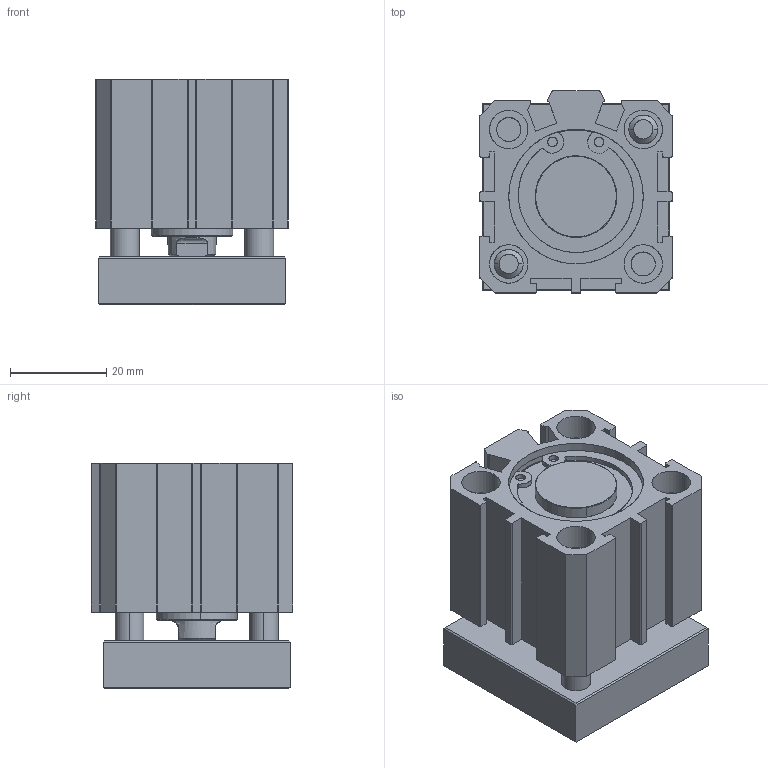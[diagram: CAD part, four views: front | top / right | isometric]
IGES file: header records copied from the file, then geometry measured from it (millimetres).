
Start section: SolidWorks IGES file using analytic representation for surfaces
Global section: file name: D:\ARICA 3D ÇÝZÝMLER\3D IGES\JTD-S\JTD-S 25\JTD-S 25X0-CYLINDER.IGS; native system: SolidWorks 2013; preprocessor: SolidWorks 2013; author: user; date: 151008.132914; units: millimetre
Bounding box: 40 x 42 x 46.99 mm (x, y, z)
Surface area: 34855.8 mm2 (no closed solid volume)
Topology: 0 solids, 0 shells, 792 faces, 10971 edges, 10971 vertices
Faces by surface type: revolution 458, bspline 334
